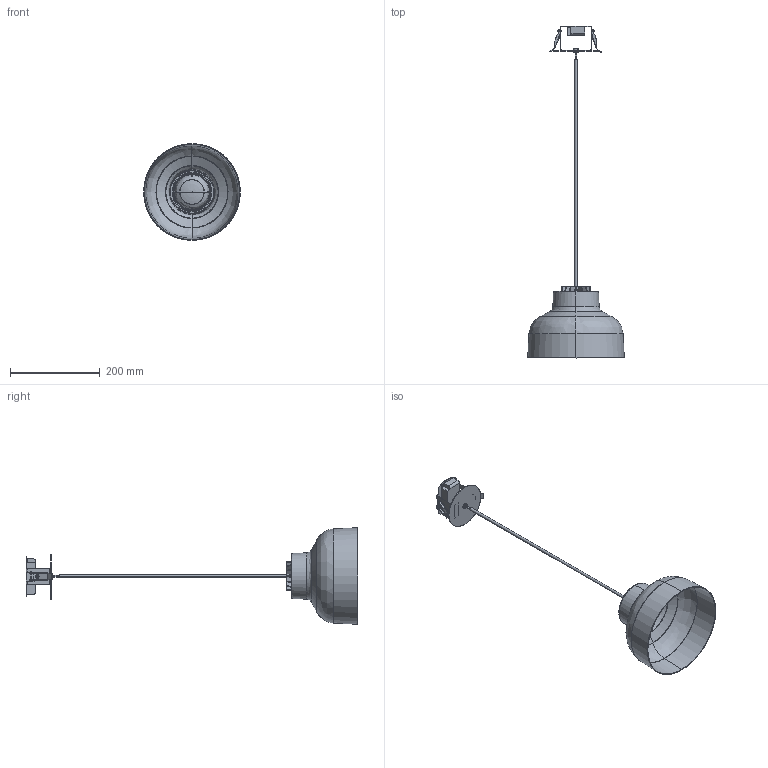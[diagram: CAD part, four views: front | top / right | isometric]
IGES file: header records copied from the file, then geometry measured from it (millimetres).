
Start section: SolidWorks IGES file using analytic representation for surfaces
Global section: file name: C:\Users\berta.gumma\OneDrive - santa &cole\Desktop\M64 florón empotrable.IGS; native system: SolidWorks 2021; preprocessor: SolidWorks 2021; author: berta.gumma; date: 230901.111538; units: millimetre
Bounding box: 215 x 738.55 x 215 mm (x, y, z)
Surface area: 302771.2 mm2 (no closed solid volume)
Topology: 0 solids, 0 shells, 897 faces, 11745 edges, 11733 vertices
Faces by surface type: bspline 609, revolution 288
